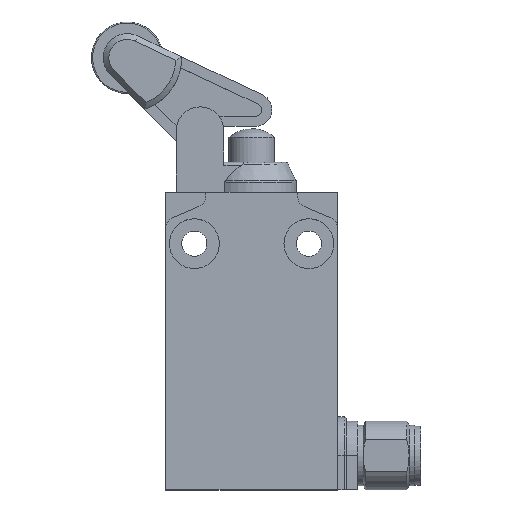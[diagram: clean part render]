
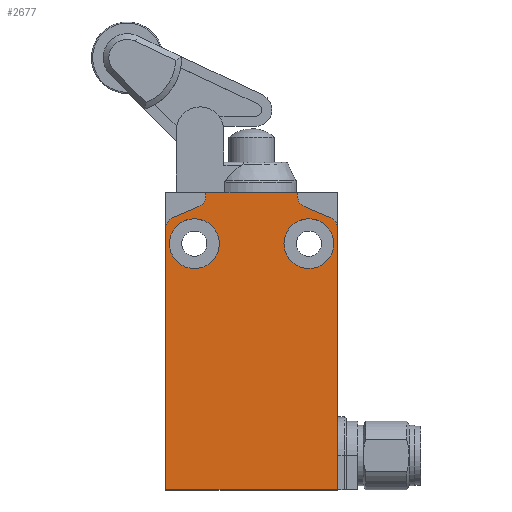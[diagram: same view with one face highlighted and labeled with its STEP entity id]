
A CAD part, top view. The second image highlights one B-rep face of the part: STEP entity #2677.
In plain terms, the highlighted planar face has unit normal (0, 0, 1) as drawn and (0, -1, 0) by its records, which use the part's own axes.
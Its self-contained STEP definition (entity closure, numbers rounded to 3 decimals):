
#64=LINE('',#3998,#288);
#91=LINE('',#4085,#315);
#92=LINE('',#4089,#316);
#93=LINE('',#4091,#317);
#94=LINE('',#4093,#318);
#95=LINE('',#4097,#319);
#96=LINE('',#4101,#320);
#97=LINE('',#4102,#321);
#288=VECTOR('',#3185,45.681);
#315=VECTOR('',#3278,4.978);
#316=VECTOR('',#3281,0.681);
#317=VECTOR('',#3282,16.);
#318=VECTOR('',#3283,0.681);
#319=VECTOR('',#3286,4.978);
#320=VECTOR('',#3289,45.681);
#321=VECTOR('',#3290,30.);
#523=PLANE('',#2877);
#612=FACE_BOUND('',#836,.T.);
#613=FACE_BOUND('',#837,.T.);
#667=FACE_OUTER_BOUND('',#835,.T.);
#835=EDGE_LOOP('',(#1841,#1842,#1843,#1844,#1845,#1846,#1847,#1848,#1849,
#1850,#1851,#1852));
#836=EDGE_LOOP('',(#1853));
#837=EDGE_LOOP('',(#1854));
#986=CIRCLE('',#2820,4.35);
#990=CIRCLE('',#2826,4.35);
#1012=CIRCLE('',#2875,2.);
#1014=CIRCLE('',#2878,2.);
#1015=CIRCLE('',#2879,2.);
#1016=CIRCLE('',#2880,2.);
#1106=VERTEX_POINT('',#3907);
#1110=VERTEX_POINT('',#3917);
#1133=VERTEX_POINT('',#3995);
#1134=VERTEX_POINT('',#3997);
#1159=VERTEX_POINT('',#4078);
#1161=VERTEX_POINT('',#4084);
#1162=VERTEX_POINT('',#4086);
#1163=VERTEX_POINT('',#4088);
#1164=VERTEX_POINT('',#4090);
#1165=VERTEX_POINT('',#4092);
#1166=VERTEX_POINT('',#4094);
#1167=VERTEX_POINT('',#4096);
#1168=VERTEX_POINT('',#4098);
#1169=VERTEX_POINT('',#4100);
#1354=EDGE_CURVE('',#1106,#1106,#986,.T.);
#1358=EDGE_CURVE('',#1110,#1110,#990,.T.);
#1389=EDGE_CURVE('',#1133,#1134,#64,.T.);
#1427=EDGE_CURVE('',#1159,#1133,#1012,.T.);
#1430=EDGE_CURVE('',#1159,#1161,#91,.T.);
#1431=EDGE_CURVE('',#1162,#1161,#1014,.T.);
#1432=EDGE_CURVE('',#1162,#1163,#92,.T.);
#1433=EDGE_CURVE('',#1164,#1163,#93,.T.);
#1434=EDGE_CURVE('',#1164,#1165,#94,.T.);
#1435=EDGE_CURVE('',#1166,#1165,#1015,.T.);
#1436=EDGE_CURVE('',#1166,#1167,#95,.T.);
#1437=EDGE_CURVE('',#1168,#1167,#1016,.T.);
#1438=EDGE_CURVE('',#1169,#1168,#96,.T.);
#1439=EDGE_CURVE('',#1134,#1169,#97,.T.);
#1841=ORIENTED_EDGE('',*,*,#1427,.F.);
#1842=ORIENTED_EDGE('',*,*,#1430,.T.);
#1843=ORIENTED_EDGE('',*,*,#1431,.F.);
#1844=ORIENTED_EDGE('',*,*,#1432,.T.);
#1845=ORIENTED_EDGE('',*,*,#1433,.F.);
#1846=ORIENTED_EDGE('',*,*,#1434,.T.);
#1847=ORIENTED_EDGE('',*,*,#1435,.F.);
#1848=ORIENTED_EDGE('',*,*,#1436,.T.);
#1849=ORIENTED_EDGE('',*,*,#1437,.F.);
#1850=ORIENTED_EDGE('',*,*,#1438,.F.);
#1851=ORIENTED_EDGE('',*,*,#1439,.F.);
#1852=ORIENTED_EDGE('',*,*,#1389,.F.);
#1853=ORIENTED_EDGE('',*,*,#1358,.T.);
#1854=ORIENTED_EDGE('',*,*,#1354,.T.);
#2677=ADVANCED_FACE('',(#667,#612,#613),#523,.T.);
#2820=AXIS2_PLACEMENT_3D('',#3908,#3122,#3123);
#2826=AXIS2_PLACEMENT_3D('',#3918,#3134,#3135);
#2875=AXIS2_PLACEMENT_3D('',#4079,#3271,#3272);
#2877=AXIS2_PLACEMENT_3D('',#4083,#3276,#3277);
#2878=AXIS2_PLACEMENT_3D('',#4087,#3279,#3280);
#2879=AXIS2_PLACEMENT_3D('',#4095,#3284,#3285);
#2880=AXIS2_PLACEMENT_3D('',#4099,#3287,#3288);
#3122=DIRECTION('center_axis',(0.,1.,0.));
#3123=DIRECTION('ref_axis',(-1.,0.,0.));
#3134=DIRECTION('center_axis',(0.,1.,0.));
#3135=DIRECTION('ref_axis',(1.,0.,0.));
#3185=DIRECTION('',(0.,0.,-1.));
#3271=DIRECTION('center_axis',(0.,1.,0.));
#3272=DIRECTION('ref_axis',(0.835,0.,0.55));
#3276=DIRECTION('center_axis',(0.,-1.,0.));
#3277=DIRECTION('ref_axis',(1.,0.,0.));
#3278=DIRECTION('',(-0.919,0.,0.394));
#3279=DIRECTION('center_axis',(0.,-1.,0.));
#3280=DIRECTION('ref_axis',(-0.835,0.,-0.55));
#3281=DIRECTION('',(0.,0.,1.));
#3282=DIRECTION('',(1.,0.,0.));
#3283=DIRECTION('',(0.,0.,-1.));
#3284=DIRECTION('center_axis',(0.,-1.,0.));
#3285=DIRECTION('ref_axis',(0.835,0.,-0.55));
#3286=DIRECTION('',(-0.919,0.,-0.394));
#3287=DIRECTION('center_axis',(0.,1.,0.));
#3288=DIRECTION('ref_axis',(-0.835,0.,0.55));
#3289=DIRECTION('',(0.,0.,1.));
#3290=DIRECTION('',(-1.,0.,0.));
#3907=CARTESIAN_POINT('',(-5.65,-16.,0.));
#3908=CARTESIAN_POINT('Origin',(-10.,-16.,0.));
#3917=CARTESIAN_POINT('',(5.65,-16.,0.));
#3918=CARTESIAN_POINT('Origin',(10.,-16.,0.));
#3995=CARTESIAN_POINT('',(15.,-16.,2.681));
#3997=CARTESIAN_POINT('',(15.,-16.,-43.));
#3998=CARTESIAN_POINT('',(15.,-16.,2.681));
#4078=CARTESIAN_POINT('',(13.788,-16.,4.519));
#4079=CARTESIAN_POINT('Origin',(13.,-16.,2.681));
#4083=CARTESIAN_POINT('Origin',(0.,-16.,-15.5));
#4084=CARTESIAN_POINT('',(9.212,-16.,6.481));
#4085=CARTESIAN_POINT('',(13.788,-16.,4.519));
#4086=CARTESIAN_POINT('',(8.,-16.,8.319));
#4087=CARTESIAN_POINT('Origin',(10.,-16.,8.319));
#4088=CARTESIAN_POINT('',(8.,-16.,9.));
#4089=CARTESIAN_POINT('',(8.,-16.,8.319));
#4090=CARTESIAN_POINT('',(-8.,-16.,9.));
#4091=CARTESIAN_POINT('',(-8.,-16.,9.));
#4092=CARTESIAN_POINT('',(-8.,-16.,8.319));
#4093=CARTESIAN_POINT('',(-8.,-16.,9.));
#4094=CARTESIAN_POINT('',(-9.212,-16.,6.481));
#4095=CARTESIAN_POINT('Origin',(-10.,-16.,8.319));
#4096=CARTESIAN_POINT('',(-13.788,-16.,4.519));
#4097=CARTESIAN_POINT('',(-9.212,-16.,6.481));
#4098=CARTESIAN_POINT('',(-15.,-16.,2.681));
#4099=CARTESIAN_POINT('Origin',(-13.,-16.,2.681));
#4100=CARTESIAN_POINT('',(-15.,-16.,-43.));
#4101=CARTESIAN_POINT('',(-15.,-16.,-43.));
#4102=CARTESIAN_POINT('',(15.,-16.,-43.));
